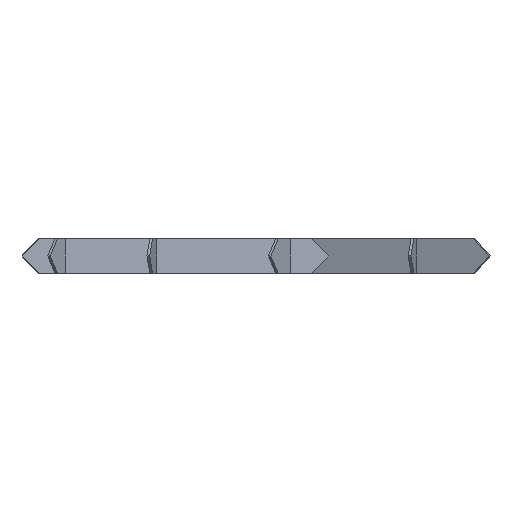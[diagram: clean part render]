
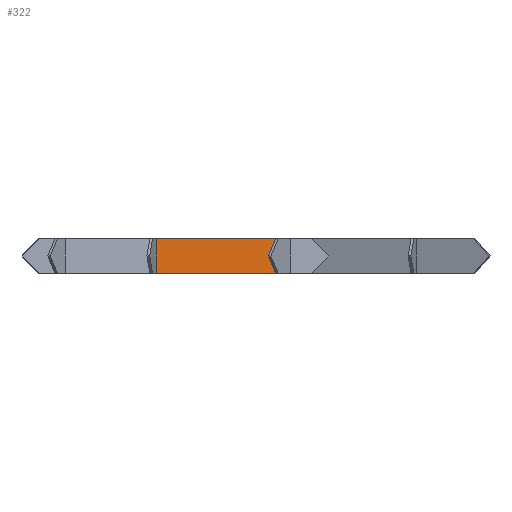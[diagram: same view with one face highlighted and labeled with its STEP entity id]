
A CAD part, front view. The second image highlights one B-rep face of the part: STEP entity #322.
In plain terms, the highlighted planar face has unit normal (0.087, -0.996, 0).
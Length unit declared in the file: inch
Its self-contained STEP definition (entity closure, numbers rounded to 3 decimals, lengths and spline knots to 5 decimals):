
#322=ADVANCED_FACE('',(#491),#3770,.T.);
#491=FACE_OUTER_BOUND('',#660,.T.);
#660=EDGE_LOOP('',(#1089,#1090,#1091,#1092));
#1089=ORIENTED_EDGE('',*,*,#1803,.F.);
#1090=ORIENTED_EDGE('',*,*,#1796,.T.);
#1091=ORIENTED_EDGE('',*,*,#1802,.T.);
#1092=ORIENTED_EDGE('',*,*,#1946,.F.);
#1796=EDGE_CURVE('',#3228,#3229,#2486,.T.);
#1802=EDGE_CURVE('',#3229,#3325,#2492,.T.);
#1803=EDGE_CURVE('',#3228,#3324,#2493,.T.);
#1946=EDGE_CURVE('',#3324,#3325,#2636,.T.);
#2486=B_SPLINE_CURVE_WITH_KNOTS('',1,(#4754,#4755),.UNSPECIFIED.,.F.,.F.,
(2,2),(-6.,0.),.UNSPECIFIED.);
#2492=B_SPLINE_CURVE_WITH_KNOTS('',1,(#4766,#4767),.UNSPECIFIED.,.F.,.F.,
(2,2),(54.55039,82.87169),.UNSPECIFIED.);
#2493=B_SPLINE_CURVE_WITH_KNOTS('',1,(#4768,#4769),.UNSPECIFIED.,.F.,.F.,
(2,2),(54.55039,82.87169),.UNSPECIFIED.);
#2636=B_SPLINE_CURVE_WITH_KNOTS('',1,(#5054,#5055),.UNSPECIFIED.,.F.,.F.,
(2,2),(-6.,0.),.UNSPECIFIED.);
#3228=VERTEX_POINT('',#4404);
#3229=VERTEX_POINT('',#4405);
#3324=VERTEX_POINT('',#4500);
#3325=VERTEX_POINT('',#4501);
#3770=PLANE('',#3988);
#3988=AXIS2_PLACEMENT_3D('',#4329,#4119,$);
#4119=DIRECTION('',(0.087,-0.996,0.));
#4329=CARTESIAN_POINT('',(-64.53706,-388.31812,427.56892));
#4404=CARTESIAN_POINT('',(-40.8806,-386.24845,433.56892));
#4405=CARTESIAN_POINT('',(-40.8806,-386.24845,427.56892));
#4500=CARTESIAN_POINT('',(-17.81835,-384.23076,433.56892));
#4501=CARTESIAN_POINT('',(-17.81835,-384.23076,427.56892));
#4754=CARTESIAN_POINT('',(-40.8806,-386.24845,433.56892));
#4755=CARTESIAN_POINT('',(-40.8806,-386.24845,427.56892));
#4766=CARTESIAN_POINT('',(-40.8806,-386.24845,427.56892));
#4767=CARTESIAN_POINT('',(-17.81835,-384.23076,427.56892));
#4768=CARTESIAN_POINT('',(-40.8806,-386.24845,433.56892));
#4769=CARTESIAN_POINT('',(-17.81835,-384.23076,433.56892));
#5054=CARTESIAN_POINT('',(-17.81835,-384.23076,433.56892));
#5055=CARTESIAN_POINT('',(-17.81835,-384.23076,427.56892));
